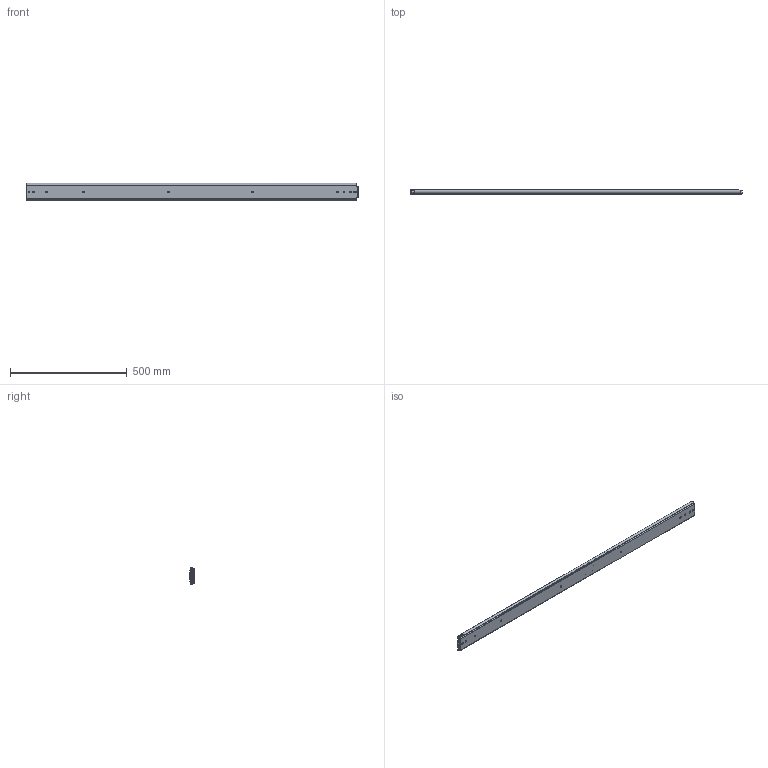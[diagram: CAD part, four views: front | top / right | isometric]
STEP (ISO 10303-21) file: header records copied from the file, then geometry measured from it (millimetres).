
FILE_DESCRIPTION((''),'2;1');
FILE_NAME('DG-76-02-56_ASM','2023-05-15T',('jishu015'),(''),'PRO/ENGINEER BY PARAMETRIC TECHNOLOGY CORPORATION, 2010280','PRO/ENGINEER BY PARAMETRIC TECHNOLOGY CORPORATION, 2010280','');
FILE_SCHEMA(('CONFIG_CONTROL_DESIGN'));
Products named in the file (18): KP-76-04WAIKE3___; 1076-WAIKEZIDANJIAO3___; WAIK72____ASM; 1076XIAOZHUTIAO1___; 163___; 1076XIAOZHUTIAO1____ASM; KP-76-04ZHONGGUI3___; 76CHANGGUIZHONGGUIJIAO3___; 3X6WODIN3___; PJ-76-33___; 76-XIAOZHUJIA3___; GANGZHU-XIAO3___; ZHUJIA-XIAO3____ASM; ZHONGGUI3____ASM; KP-76-04NEIGUI3___; XIN-TANPIAN___; NEIGUI3____ASM; DG-76-02-56_ASM
Assembly tree (98 placements, depth 4):
  DG-76-02-56_ASM
    WAIK72____ASM
      KP-76-04WAIKE3___
      1076-WAIKEZIDANJIAO3___  x2
    1076XIAOZHUTIAO1____ASM  x2
      1076XIAOZHUTIAO1___
      163___
    ZHONGGUI3____ASM
      KP-76-04ZHONGGUI3___
      76CHANGGUIZHONGGUIJIAO3___
      3X6WODIN3___
      PJ-76-33___
      ZHUJIA-XIAO3____ASM
        76-XIAOZHUJIA3___
        GANGZHU-XIAO3___  x54
    NEIGUI3____ASM
      KP-76-04NEIGUI3___
      XIN-TANPIAN___
Bounding box: 1422.4 x 19.5 x 75.3 mm (x, y, z)
Volume: 932935.5 mm3; surface area: 895338.2 mm2
Topology: 120 solids, 120 shells, 2432 faces, 7694 edges, 4827 vertices
Faces by surface type: plane 1319, cylinder 792, sphere 218, extrusion 81, cone 18, bspline 4
Entity records: 72505 total; most frequent: CARTESIAN_POINT 17133, ORIENTED_EDGE 12332, DIRECTION 10729, EDGE_CURVE 6166, VERTEX_POINT 4027, AXIS2_PLACEMENT_3D 3593, VECTOR 3543, LINE 3462
